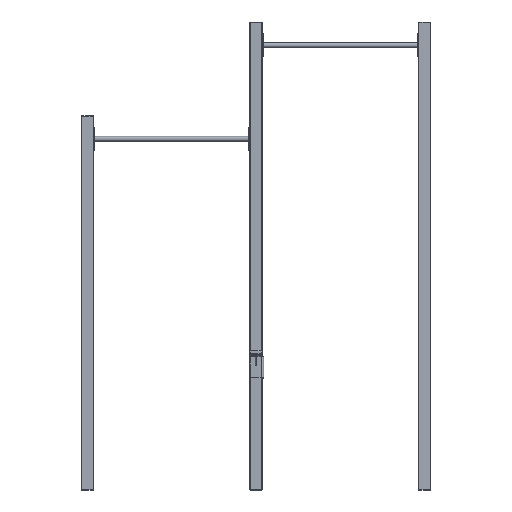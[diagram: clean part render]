
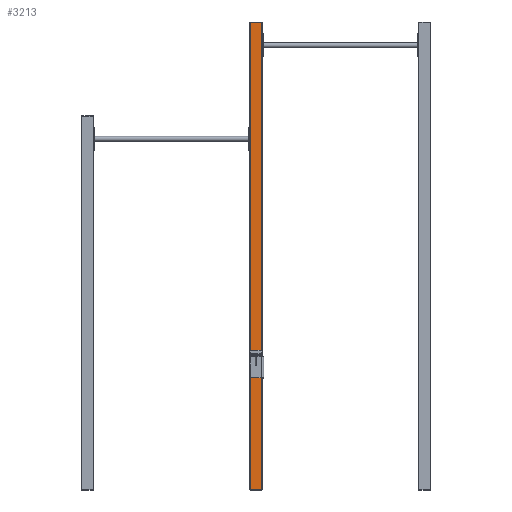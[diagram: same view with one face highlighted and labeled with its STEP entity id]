
A CAD part, top view. The second image highlights one B-rep face of the part: STEP entity #3213.
In plain terms, the highlighted planar face has unit normal (0, 0, 1).
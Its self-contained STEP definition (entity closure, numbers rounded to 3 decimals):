
#229=FACE_OUTER_BOUND('',#437,.T.);
#437=EDGE_LOOP('',(#2316,#2317,#2318,#2319));
#669=LINE('',#4942,#968);
#689=LINE('',#4997,#988);
#690=LINE('',#5000,#989);
#691=LINE('',#5001,#990);
#968=VECTOR('',#3909,10.);
#988=VECTOR('',#3963,10.);
#989=VECTOR('',#3966,10.);
#990=VECTOR('',#3967,10.);
#1429=VERTEX_POINT('',#4939);
#1430=VERTEX_POINT('',#4941);
#1448=VERTEX_POINT('',#4995);
#1449=VERTEX_POINT('',#4999);
#1745=EDGE_CURVE('',#1429,#1430,#669,.T.);
#1773=EDGE_CURVE('',#1429,#1448,#689,.T.);
#1774=EDGE_CURVE('',#1449,#1448,#690,.T.);
#1775=EDGE_CURVE('',#1430,#1449,#691,.T.);
#2316=ORIENTED_EDGE('',*,*,#1773,.T.);
#2317=ORIENTED_EDGE('',*,*,#1774,.F.);
#2318=ORIENTED_EDGE('',*,*,#1775,.F.);
#2319=ORIENTED_EDGE('',*,*,#1745,.F.);
#3092=PLANE('',#3470);
#3213=ADVANCED_FACE('',(#229),#3092,.T.);
#3470=AXIS2_PLACEMENT_3D('',#4998,#3964,#3965);
#3909=DIRECTION('',(-1.,0.,0.));
#3963=DIRECTION('',(0.,1.,0.));
#3964=DIRECTION('center_axis',(0.,0.,1.));
#3965=DIRECTION('ref_axis',(1.,0.,0.));
#3966=DIRECTION('',(1.,0.,0.));
#3967=DIRECTION('',(0.,1.,0.));
#4939=CARTESIAN_POINT('',(1947.744,-1117.359,40.));
#4941=CARTESIAN_POINT('',(1873.744,-1117.359,40.));
#4942=CARTESIAN_POINT('',(1947.744,-1117.359,40.));
#4995=CARTESIAN_POINT('',(1947.744,1877.641,40.));
#4997=CARTESIAN_POINT('',(1947.744,-572.359,40.));
#4998=CARTESIAN_POINT('Origin',(1873.744,-572.359,40.));
#4999=CARTESIAN_POINT('',(1873.744,1877.641,40.));
#5000=CARTESIAN_POINT('',(1873.744,1877.641,40.));
#5001=CARTESIAN_POINT('',(1873.744,-572.359,40.));
